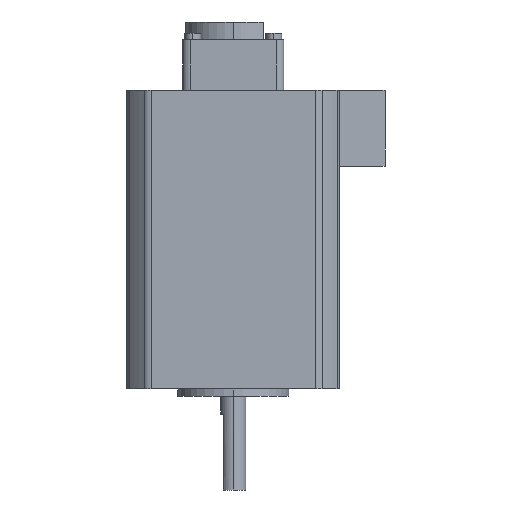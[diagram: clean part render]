
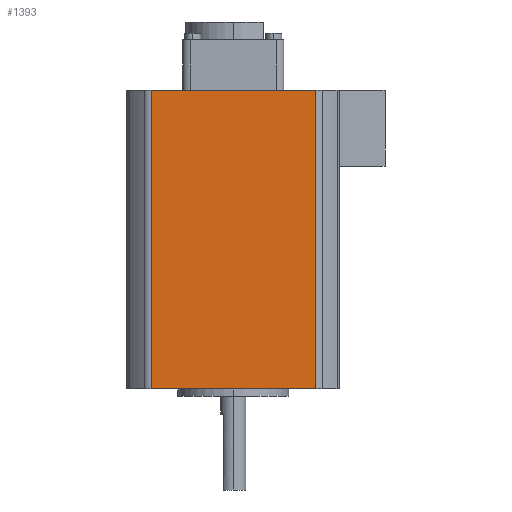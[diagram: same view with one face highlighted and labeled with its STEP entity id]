
A CAD part, left-side view. The second image highlights one B-rep face of the part: STEP entity #1393.
In plain terms, the highlighted planar face has unit normal (-1, 0, 0).
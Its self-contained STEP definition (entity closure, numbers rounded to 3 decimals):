
#7 = EDGE_CURVE ( 'NONE', #2428, #1959, #3092, .T. ) ;
#271 = LINE ( 'NONE', #1419, #3144 ) ;
#273 = EDGE_CURVE ( 'NONE', #727, #1959, #3511, .T. ) ;
#562 = ORIENTED_EDGE ( 'NONE', *, *, #273, .F. ) ;
#576 = LINE ( 'NONE', #2829, #2450 ) ;
#727 = VERTEX_POINT ( 'NONE', #822 ) ;
#733 = PLANE ( 'NONE',  #2034 ) ;
#822 = CARTESIAN_POINT ( 'NONE',  ( -21., -16.248, 59. ) ) ;
#1039 = DIRECTION ( 'NONE',  ( 1., 0., 0. ) ) ;
#1060 = FACE_OUTER_BOUND ( 'NONE', #3210, .T. ) ;
#1267 = CARTESIAN_POINT ( 'NONE',  ( -21., 16.248, 0. ) ) ;
#1341 = CARTESIAN_POINT ( 'NONE',  ( -21., -16.248, 0. ) ) ;
#1393 = ADVANCED_FACE ( 'NONE', ( #1060 ), #733, .F. ) ;
#1410 = DIRECTION ( 'NONE',  ( 0., -1., 0. ) ) ;
#1419 = CARTESIAN_POINT ( 'NONE',  ( -21., 16.248, 50.5 ) ) ;
#1430 = CARTESIAN_POINT ( 'NONE',  ( -21., 16.971, 0. ) ) ;
#1504 = EDGE_CURVE ( 'NONE', #2727, #727, #576, .T. ) ;
#1943 = DIRECTION ( 'NONE',  ( 0., -1., 0. ) ) ;
#1959 = VERTEX_POINT ( 'NONE', #1341 ) ;
#2034 = AXIS2_PLACEMENT_3D ( 'NONE', #3331, #1039, #2451 ) ;
#2053 = ORIENTED_EDGE ( 'NONE', *, *, #7, .T. ) ;
#2211 = EDGE_CURVE ( 'NONE', #2727, #2428, #271, .T. ) ;
#2241 = ORIENTED_EDGE ( 'NONE', *, *, #2211, .T. ) ;
#2392 = CARTESIAN_POINT ( 'NONE',  ( -21., 16.248, 59. ) ) ;
#2413 = CARTESIAN_POINT ( 'NONE',  ( -21., -16.248, 50.5 ) ) ;
#2428 = VERTEX_POINT ( 'NONE', #1267 ) ;
#2432 = DIRECTION ( 'NONE',  ( 0., 0., -1. ) ) ;
#2450 = VECTOR ( 'NONE', #1410, 1000. ) ;
#2451 = DIRECTION ( 'NONE',  ( 0., 1., 0. ) ) ;
#2474 = ORIENTED_EDGE ( 'NONE', *, *, #1504, .F. ) ;
#2541 = DIRECTION ( 'NONE',  ( 0., 0., -1. ) ) ;
#2727 = VERTEX_POINT ( 'NONE', #2392 ) ;
#2829 = CARTESIAN_POINT ( 'NONE',  ( -21., 16.248, 59. ) ) ;
#2939 = VECTOR ( 'NONE', #2432, 1000. ) ;
#2994 = VECTOR ( 'NONE', #1943, 1000. ) ;
#3092 = LINE ( 'NONE', #1430, #2994 ) ;
#3144 = VECTOR ( 'NONE', #2541, 1000. ) ;
#3210 = EDGE_LOOP ( 'NONE', ( #2241, #2053, #562, #2474 ) ) ;
#3331 = CARTESIAN_POINT ( 'NONE',  ( -21., 16.248, 50.5 ) ) ;
#3511 = LINE ( 'NONE', #2413, #2939 ) ;
